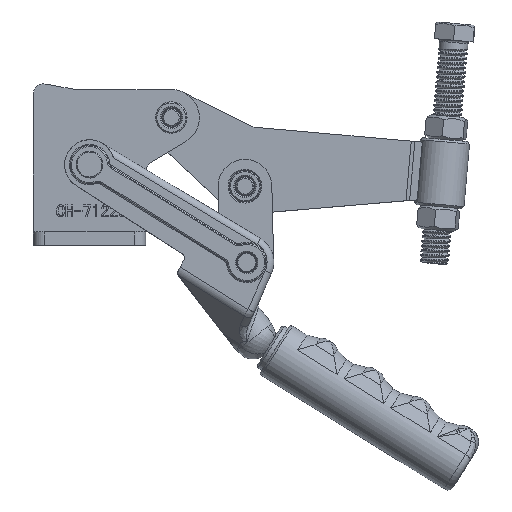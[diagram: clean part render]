
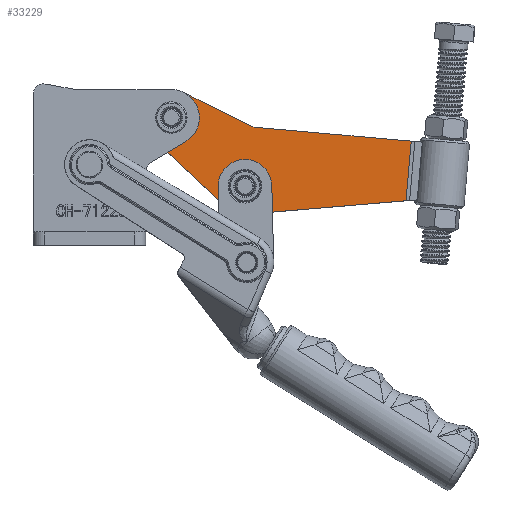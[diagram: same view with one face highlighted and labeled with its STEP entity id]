
A CAD part, top view. The second image highlights one B-rep face of the part: STEP entity #33229.
In plain terms, the highlighted planar face has unit normal (0, 0, 1).
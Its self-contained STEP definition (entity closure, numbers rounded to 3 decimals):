
#1141=FACE_BOUND('',#4175,.T.);
#1142=FACE_BOUND('',#4176,.T.);
#1348=PLANE('',#35167);
#2351=FACE_OUTER_BOUND('',#4174,.T.);
#4174=EDGE_LOOP('',(#23954,#23955,#23956,#23957,#23958,#23959,#23960,#23961));
#4175=EDGE_LOOP('',(#23962,#23963));
#4176=EDGE_LOOP('',(#23964,#23965));
#6254=LINE('',#57350,#9308);
#6255=LINE('',#57352,#9309);
#6256=LINE('',#57354,#9310);
#6257=LINE('',#57358,#9311);
#6258=LINE('',#57362,#9312);
#9308=VECTOR('',#39204,1000.);
#9309=VECTOR('',#39205,1000.);
#9310=VECTOR('',#39206,1000.);
#9311=VECTOR('',#39209,1000.);
#9312=VECTOR('',#39212,1000.);
#11796=CIRCLE('',#35148,5.);
#11797=CIRCLE('',#35149,5.);
#11800=CIRCLE('',#35153,5.);
#11801=CIRCLE('',#35154,5.);
#11810=CIRCLE('',#35168,5.);
#11811=CIRCLE('',#35169,12.5);
#11812=CIRCLE('',#35170,12.5);
#13918=VERTEX_POINT('',#57308);
#13919=VERTEX_POINT('',#57310);
#13922=VERTEX_POINT('',#57318);
#13923=VERTEX_POINT('',#57320);
#13932=VERTEX_POINT('',#57348);
#13933=VERTEX_POINT('',#57349);
#13934=VERTEX_POINT('',#57351);
#13935=VERTEX_POINT('',#57353);
#13936=VERTEX_POINT('',#57355);
#13937=VERTEX_POINT('',#57357);
#13938=VERTEX_POINT('',#57359);
#13939=VERTEX_POINT('',#57361);
#17712=EDGE_CURVE('',#13919,#13918,#11796,.T.);
#17713=EDGE_CURVE('',#13918,#13919,#11797,.T.);
#17717=EDGE_CURVE('',#13923,#13922,#11800,.T.);
#17718=EDGE_CURVE('',#13922,#13923,#11801,.T.);
#17731=EDGE_CURVE('',#13932,#13933,#6254,.T.);
#17732=EDGE_CURVE('',#13933,#13934,#6255,.T.);
#17733=EDGE_CURVE('',#13934,#13935,#6256,.T.);
#17734=EDGE_CURVE('',#13935,#13936,#11810,.T.);
#17735=EDGE_CURVE('',#13936,#13937,#6257,.T.);
#17736=EDGE_CURVE('',#13937,#13938,#11811,.T.);
#17737=EDGE_CURVE('',#13938,#13939,#6258,.T.);
#17738=EDGE_CURVE('',#13939,#13932,#11812,.T.);
#23954=ORIENTED_EDGE('',*,*,#17731,.T.);
#23955=ORIENTED_EDGE('',*,*,#17732,.T.);
#23956=ORIENTED_EDGE('',*,*,#17733,.T.);
#23957=ORIENTED_EDGE('',*,*,#17734,.T.);
#23958=ORIENTED_EDGE('',*,*,#17735,.T.);
#23959=ORIENTED_EDGE('',*,*,#17736,.T.);
#23960=ORIENTED_EDGE('',*,*,#17737,.T.);
#23961=ORIENTED_EDGE('',*,*,#17738,.T.);
#23962=ORIENTED_EDGE('',*,*,#17717,.T.);
#23963=ORIENTED_EDGE('',*,*,#17718,.T.);
#23964=ORIENTED_EDGE('',*,*,#17712,.T.);
#23965=ORIENTED_EDGE('',*,*,#17713,.T.);
#33229=ADVANCED_FACE('',(#2351,#1141,#1142),#1348,.T.);
#35148=AXIS2_PLACEMENT_3D('',#57311,#39159,#39160);
#35149=AXIS2_PLACEMENT_3D('',#57312,#39161,#39162);
#35153=AXIS2_PLACEMENT_3D('',#57321,#39170,#39171);
#35154=AXIS2_PLACEMENT_3D('',#57322,#39172,#39173);
#35167=AXIS2_PLACEMENT_3D('',#57347,#39202,#39203);
#35168=AXIS2_PLACEMENT_3D('',#57356,#39207,#39208);
#35169=AXIS2_PLACEMENT_3D('',#57360,#39210,#39211);
#35170=AXIS2_PLACEMENT_3D('',#57363,#39213,#39214);
#39159=DIRECTION('center_axis',(0.,0.,-1.));
#39160=DIRECTION('ref_axis',(1.,0.,0.));
#39161=DIRECTION('center_axis',(0.,0.,-1.));
#39162=DIRECTION('ref_axis',(1.,0.,0.));
#39170=DIRECTION('center_axis',(0.,0.,-1.));
#39171=DIRECTION('ref_axis',(1.,0.,0.));
#39172=DIRECTION('center_axis',(0.,0.,-1.));
#39173=DIRECTION('ref_axis',(1.,0.,0.));
#39202=DIRECTION('center_axis',(0.,0.,1.));
#39203=DIRECTION('ref_axis',(1.,0.,0.));
#39204=DIRECTION('',(-0.985,-0.172,0.));
#39205=DIRECTION('',(0.,-1.,0.));
#39206=DIRECTION('',(1.,0.,0.));
#39207=DIRECTION('center_axis',(0.,0.,-1.));
#39208=DIRECTION('ref_axis',(1.,0.,0.));
#39209=DIRECTION('',(0.931,-0.364,0.));
#39210=DIRECTION('center_axis',(0.,0.,1.));
#39211=DIRECTION('ref_axis',(1.,0.,0.));
#39212=DIRECTION('',(-0.788,0.615,0.));
#39213=DIRECTION('center_axis',(0.,0.,1.));
#39214=DIRECTION('ref_axis',(1.,0.,0.));
#57308=CARTESIAN_POINT('',(-5.,0.,6.));
#57310=CARTESIAN_POINT('',(5.,0.,6.));
#57311=CARTESIAN_POINT('Origin',(0.,0.,6.));
#57312=CARTESIAN_POINT('Origin',(0.,0.,6.));
#57318=CARTESIAN_POINT('',(-40.4,27.62,6.));
#57320=CARTESIAN_POINT('',(-30.4,27.62,6.));
#57321=CARTESIAN_POINT('Origin',(-35.4,27.62,6.));
#57322=CARTESIAN_POINT('Origin',(-35.4,27.62,6.));
#57347=CARTESIAN_POINT('Origin',(-37.816,-4.,6.));
#57348=CARTESIAN_POINT('',(-37.554,39.933,6.));
#57349=CARTESIAN_POINT('',(-107.5,27.7,6.));
#57350=CARTESIAN_POINT('',(-111.5,27.,6.));
#57351=CARTESIAN_POINT('',(-107.5,1.,6.));
#57352=CARTESIAN_POINT('',(-107.5,1.,6.));
#57353=CARTESIAN_POINT('',(-37.816,1.,6.));
#57354=CARTESIAN_POINT('',(-37.816,1.,6.));
#57355=CARTESIAN_POINT('',(-35.994,0.656,6.));
#57356=CARTESIAN_POINT('Origin',(-37.816,-4.,6.));
#57357=CARTESIAN_POINT('',(-4.553,-11.641,6.));
#57358=CARTESIAN_POINT('',(-4.553,-11.641,6.));
#57359=CARTESIAN_POINT('',(7.689,9.855,6.));
#57360=CARTESIAN_POINT('Origin',(0.,0.,6.));
#57361=CARTESIAN_POINT('',(-27.711,37.475,6.));
#57362=CARTESIAN_POINT('',(7.689,9.855,6.));
#57363=CARTESIAN_POINT('Origin',(-35.4,27.62,6.));
